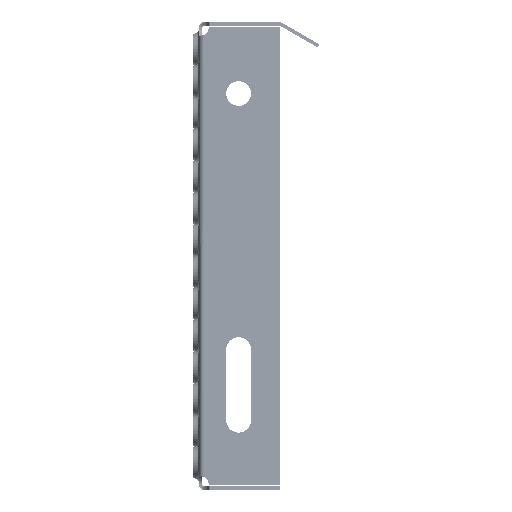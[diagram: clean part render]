
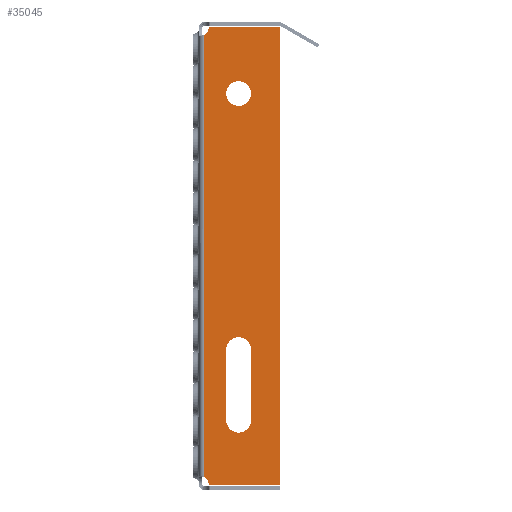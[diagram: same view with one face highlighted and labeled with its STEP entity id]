
A CAD part, left-side view. The second image highlights one B-rep face of the part: STEP entity #35045.
In plain terms, the highlighted planar face has unit normal (-1, 0, 0).
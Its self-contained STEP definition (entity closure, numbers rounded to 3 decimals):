
#162 = DIRECTION ( 'NONE',  ( 0., 1., 0. ) ) ;
#167 = CARTESIAN_POINT ( 'NONE',  ( -800., -6.416, 116. ) ) ;
#743 = EDGE_CURVE ( 'NONE', #1520, #50916, #56098, .T. ) ;
#1520 = VERTEX_POINT ( 'NONE', #47666 ) ;
#1529 = CARTESIAN_POINT ( 'NONE',  ( -800., -3., 112.67 ) ) ;
#1682 = ORIENTED_EDGE ( 'NONE', *, *, #18064, .T. ) ;
#1713 = CARTESIAN_POINT ( 'NONE',  ( -800., -6.416, 117. ) ) ;
#2038 = CARTESIAN_POINT ( 'NONE',  ( -800., -29.5, -65.5 ) ) ;
#3155 = DIRECTION ( 'NONE',  ( 0., 0., 1. ) ) ;
#3338 = VERTEX_POINT ( 'NONE', #52542 ) ;
#3455 = VECTOR ( 'NONE', #162, 1000. ) ;
#3819 = ORIENTED_EDGE ( 'NONE', *, *, #55089, .T. ) ;
#3975 = VECTOR ( 'NONE', #20587, 1000. ) ;
#4581 = FACE_BOUND ( 'NONE', #10465, .T. ) ;
#4992 = EDGE_CURVE ( 'NONE', #43873, #43612, #19811, .T. ) ;
#10465 = EDGE_LOOP ( 'NONE', ( #17595, #58082, #84607, #20308 ) ) ;
#10520 = AXIS2_PLACEMENT_3D ( 'NONE', #52641, #13094, #59226 ) ;
#11446 = EDGE_CURVE ( 'NONE', #3338, #47743, #17385, .T. ) ;
#11696 = AXIS2_PLACEMENT_3D ( 'NONE', #16203, #62363, #22855 ) ;
#12229 = CARTESIAN_POINT ( 'NONE',  ( -800., -0.5, -142. ) ) ;
#12742 = LINE ( 'NONE', #52933, #47886 ) ;
#13020 = ORIENTED_EDGE ( 'NONE', *, *, #83614, .T. ) ;
#13094 = DIRECTION ( 'NONE',  ( -1., 0., 0. ) ) ;
#13512 = PLANE ( 'NONE',  #35651 ) ;
#14090 = CARTESIAN_POINT ( 'NONE',  ( -800., 0.5, -147.916 ) ) ;
#14989 = CARTESIAN_POINT ( 'NONE',  ( -800., -46., -142. ) ) ;
#15487 = CARTESIAN_POINT ( 'NONE',  ( -800., -15.5, -65.5 ) ) ;
#15500 = VERTEX_POINT ( 'NONE', #84098 ) ;
#15954 = CIRCLE ( 'NONE', #43924, 7. ) ;
#16203 = CARTESIAN_POINT ( 'NONE',  ( -800., -6.416, -141. ) ) ;
#17113 = CIRCLE ( 'NONE', #17205, 5. ) ;
#17205 = AXIS2_PLACEMENT_3D ( 'NONE', #12229, #58376, #18879 ) ;
#17385 = LINE ( 'NONE', #73328, #3975 ) ;
#17438 = VERTEX_POINT ( 'NONE', #83836 ) ;
#17525 = ORIENTED_EDGE ( 'NONE', *, *, #20159, .T. ) ;
#17595 = ORIENTED_EDGE ( 'NONE', *, *, #68546, .F. ) ;
#18064 = EDGE_CURVE ( 'NONE', #3338, #43873, #17113, .T. ) ;
#18735 = CARTESIAN_POINT ( 'NONE',  ( -800., -29.5, -105.5 ) ) ;
#18856 = ORIENTED_EDGE ( 'NONE', *, *, #4992, .T. ) ;
#18879 = DIRECTION ( 'NONE',  ( 0., 0., -1. ) ) ;
#19811 = CIRCLE ( 'NONE', #11696, 1. ) ;
#20049 = FACE_OUTER_BOUND ( 'NONE', #74738, .T. ) ;
#20159 = EDGE_CURVE ( 'NONE', #43612, #17438, #12742, .T. ) ;
#20308 = ORIENTED_EDGE ( 'NONE', *, *, #60186, .F. ) ;
#20587 = DIRECTION ( 'NONE',  ( 0., 0., 1. ) ) ;
#20738 = DIRECTION ( 'NONE',  ( 0., 0., -1. ) ) ;
#20757 = VERTEX_POINT ( 'NONE', #78450 ) ;
#22855 = DIRECTION ( 'NONE',  ( 0., 0., -1. ) ) ;
#23575 = AXIS2_PLACEMENT_3D ( 'NONE', #27012, #73118, #33623 ) ;
#26210 = LINE ( 'NONE', #15487, #45845 ) ;
#27012 = CARTESIAN_POINT ( 'NONE',  ( -800., -0.5, 117. ) ) ;
#27035 = DIRECTION ( 'NONE',  ( -1., 0., 0. ) ) ;
#27262 = CARTESIAN_POINT ( 'NONE',  ( -800., -22.5, -105.5 ) ) ;
#28408 = ORIENTED_EDGE ( 'NONE', *, *, #38208, .F. ) ;
#29430 = CIRCLE ( 'NONE', #10520, 7. ) ;
#29513 = CARTESIAN_POINT ( 'NONE',  ( -800., -15.5, -105.5 ) ) ;
#29732 = ORIENTED_EDGE ( 'NONE', *, *, #743, .T. ) ;
#33623 = DIRECTION ( 'NONE',  ( 0., 0., -1. ) ) ;
#33886 = DIRECTION ( 'NONE',  ( 0., 0., -1. ) ) ;
#35045 = ADVANCED_FACE ( 'NONE', ( #20049, #37607, #4581 ), #13512, .F. ) ;
#35651 = AXIS2_PLACEMENT_3D ( 'NONE', #14090, #46993, #20738 ) ;
#37607 = FACE_BOUND ( 'NONE', #50839, .T. ) ;
#38208 = EDGE_CURVE ( 'NONE', #67578, #67578, #29430, .T. ) ;
#38386 = CIRCLE ( 'NONE', #23575, 5. ) ;
#38729 = VECTOR ( 'NONE', #65455, 1000. ) ;
#39670 = CARTESIAN_POINT ( 'NONE',  ( -800., -46., 117. ) ) ;
#43612 = VERTEX_POINT ( 'NONE', #45351 ) ;
#43873 = VERTEX_POINT ( 'NONE', #68681 ) ;
#43924 = AXIS2_PLACEMENT_3D ( 'NONE', #27262, #73365, #33886 ) ;
#44140 = VERTEX_POINT ( 'NONE', #18735 ) ;
#45351 = CARTESIAN_POINT ( 'NONE',  ( -800., -6.416, -142. ) ) ;
#45845 = VECTOR ( 'NONE', #55035, 1000. ) ;
#46215 = EDGE_CURVE ( 'NONE', #44140, #55140, #52181, .T. ) ;
#46993 = DIRECTION ( 'NONE',  ( 1., 0., 0. ) ) ;
#47666 = CARTESIAN_POINT ( 'NONE',  ( -800., -46., 117. ) ) ;
#47743 = VERTEX_POINT ( 'NONE', #1529 ) ;
#47886 = VECTOR ( 'NONE', #78829, 1000. ) ;
#48946 = EDGE_CURVE ( 'NONE', #50916, #15500, #71235, .T. ) ;
#50839 = EDGE_LOOP ( 'NONE', ( #28408 ) ) ;
#50916 = VERTEX_POINT ( 'NONE', #1713 ) ;
#52044 = AXIS2_PLACEMENT_3D ( 'NONE', #66546, #27035, #73141 ) ;
#52181 = LINE ( 'NONE', #78403, #38729 ) ;
#52542 = CARTESIAN_POINT ( 'NONE',  ( -800., -3., -137.67 ) ) ;
#52641 = CARTESIAN_POINT ( 'NONE',  ( -800., -22.5, 79.5 ) ) ;
#52933 = CARTESIAN_POINT ( 'NONE',  ( -800., -6.416, -142. ) ) ;
#55035 = DIRECTION ( 'NONE',  ( 0., 0., -1. ) ) ;
#55089 = EDGE_CURVE ( 'NONE', #17438, #1520, #76078, .T. ) ;
#55140 = VERTEX_POINT ( 'NONE', #2038 ) ;
#56098 = LINE ( 'NONE', #39670, #3455 ) ;
#56468 = VERTEX_POINT ( 'NONE', #29513 ) ;
#57557 = EDGE_CURVE ( 'NONE', #55140, #20757, #64949, .T. ) ;
#58082 = ORIENTED_EDGE ( 'NONE', *, *, #57557, .F. ) ;
#58376 = DIRECTION ( 'NONE',  ( 1., 0., 0. ) ) ;
#58542 = VECTOR ( 'NONE', #61147, 1000. ) ;
#59226 = DIRECTION ( 'NONE',  ( 0., 0., -1. ) ) ;
#60186 = EDGE_CURVE ( 'NONE', #56468, #44140, #15954, .T. ) ;
#61147 = DIRECTION ( 'NONE',  ( 0., 0., 1. ) ) ;
#61172 = DIRECTION ( 'NONE',  ( -1., 0., 0. ) ) ;
#62363 = DIRECTION ( 'NONE',  ( -1., 0., 0. ) ) ;
#64949 = CIRCLE ( 'NONE', #52044, 7. ) ;
#65455 = DIRECTION ( 'NONE',  ( 0., 0., 1. ) ) ;
#66546 = CARTESIAN_POINT ( 'NONE',  ( -800., -22.5, -65.5 ) ) ;
#67578 = VERTEX_POINT ( 'NONE', #79013 ) ;
#68546 = EDGE_CURVE ( 'NONE', #20757, #56468, #26210, .T. ) ;
#68681 = CARTESIAN_POINT ( 'NONE',  ( -800., -5.43, -141.167 ) ) ;
#71235 = CIRCLE ( 'NONE', #76573, 1. ) ;
#71977 = ORIENTED_EDGE ( 'NONE', *, *, #11446, .F. ) ;
#73118 = DIRECTION ( 'NONE',  ( 1., 0., 0. ) ) ;
#73141 = DIRECTION ( 'NONE',  ( 0., 0., -1. ) ) ;
#73328 = CARTESIAN_POINT ( 'NONE',  ( -800., -3., -147.916 ) ) ;
#73365 = DIRECTION ( 'NONE',  ( -1., 0., 0. ) ) ;
#74738 = EDGE_LOOP ( 'NONE', ( #71977, #1682, #18856, #17525, #3819, #29732, #76584, #13020 ) ) ;
#76078 = LINE ( 'NONE', #14989, #58542 ) ;
#76573 = AXIS2_PLACEMENT_3D ( 'NONE', #167, #61172, #3155 ) ;
#76584 = ORIENTED_EDGE ( 'NONE', *, *, #48946, .T. ) ;
#78403 = CARTESIAN_POINT ( 'NONE',  ( -800., -29.5, -65.5 ) ) ;
#78450 = CARTESIAN_POINT ( 'NONE',  ( -800., -15.5, -65.5 ) ) ;
#78829 = DIRECTION ( 'NONE',  ( 0., -1., 0. ) ) ;
#79013 = CARTESIAN_POINT ( 'NONE',  ( -800., -22.5, 72.5 ) ) ;
#83614 = EDGE_CURVE ( 'NONE', #15500, #47743, #38386, .T. ) ;
#83836 = CARTESIAN_POINT ( 'NONE',  ( -800., -46., -142. ) ) ;
#84098 = CARTESIAN_POINT ( 'NONE',  ( -800., -5.43, 116.167 ) ) ;
#84607 = ORIENTED_EDGE ( 'NONE', *, *, #46215, .F. ) ;
